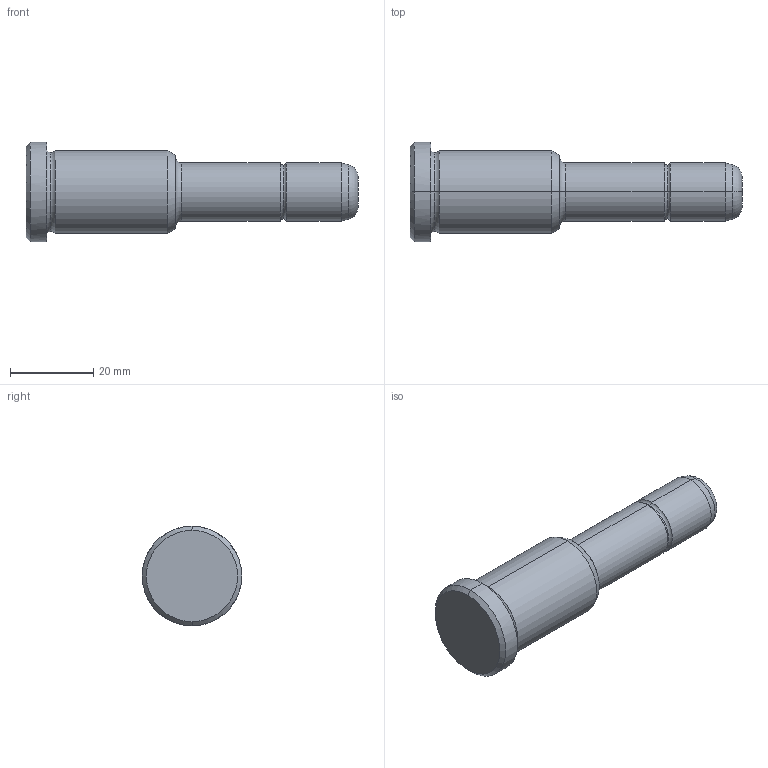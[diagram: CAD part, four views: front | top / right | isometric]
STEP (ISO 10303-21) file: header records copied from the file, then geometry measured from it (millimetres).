
FILE_DESCRIPTION(('CATIA V5 STEP Exchange'),'2;1');
FILE_NAME('C:\Users\Utente\Desktop\IO LAVORO\3D X SITO CF\X SITO\PLASTICA\351\351-14X36X80.stp','2021-08-18T10:46:44+00:00',('none'),('none'),'CATIA Version 5 Release 20 GA (IN-10)','CATIA V5 STEP AP203','none');
FILE_SCHEMA(('CONFIG_CONTROL_DESIGN'));
Length unit declared in the file: millimetre
Products named in the file (1): 351-14X36X80
Bounding box: 80 x 24 x 24 mm (x, y, z)
Volume: 18497.8 mm3; surface area: 4986.3 mm2
Topology: 1 solids, 1 shells, 30 faces, 86 edges, 60 vertices
Faces by surface type: torus 12, cylinder 8, cone 6, plane 4
Entity records: 1112 total; most frequent: CARTESIAN_POINT 289, ORIENTED_EDGE 172, DIRECTION 138, AXIS2_PLACEMENT_3D 95, EDGE_CURVE 86, CIRCLE 64, VERTEX_POINT 60, EDGE_LOOP 32
